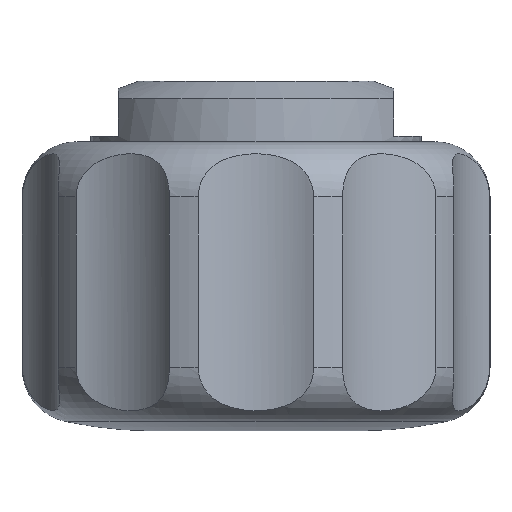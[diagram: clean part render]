
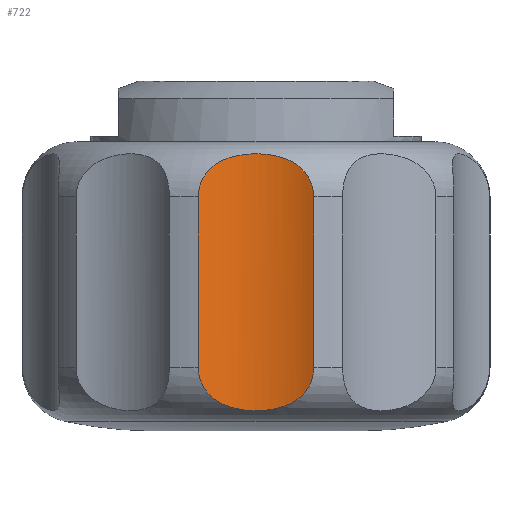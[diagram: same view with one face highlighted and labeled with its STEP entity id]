
A CAD part, front view. The second image highlights one B-rep face of the part: STEP entity #722.
In plain terms, the highlighted cylindrical face has radius 4.75 mm (diameter 9.5 mm), a partial arc.
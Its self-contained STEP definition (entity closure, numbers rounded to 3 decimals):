
#38 = B_SPLINE_CURVE_WITH_KNOTS ( 'NONE', 3,
 ( #1797, #728, #1649, #877, #1952, #1039, #127, #1198, #283, #1354, #434, #1505, #588, #1655, #733, #1803, #885, #1959, #1044, #134, #1206, #287, #1361, #439, #1516, #593 ),
 .UNSPECIFIED., .F., .F.,
 ( 4, 2, 2, 2, 2, 2, 2, 2, 2, 2, 2, 2, 4 ),
 ( 0., 0., 0.001, 0.001, 0.001, 0.002, 0.002, 0.003, 0.004, 0.004, 0.005, 0.005, 0.006 ),
 .UNSPECIFIED. ) ;
#46 = DIRECTION ( 'NONE',  ( 0., 0., 1. ) ) ;
#66 = CARTESIAN_POINT ( 'NONE',  ( 1.848, -8.124, -1.188 ) ) ;
#119 = CARTESIAN_POINT ( 'NONE',  ( -1.605, -8.028, -0.921 ) ) ;
#127 = CARTESIAN_POINT ( 'NONE',  ( -1.773, -8.092, -9.115 ) ) ;
#134 = CARTESIAN_POINT ( 'NONE',  ( 1.51, -7.995, -9.359 ) ) ;
#148 = DIRECTION ( 'NONE',  ( 0., 0., 1. ) ) ;
#161 = DIRECTION ( 'NONE',  ( 0., 0., -1. ) ) ;
#188 = ORIENTED_EDGE ( 'NONE', *, *, #861, .T. ) ;
#216 = EDGE_CURVE ( 'NONE', #1811, #1187, #1179, .T. ) ;
#218 = CARTESIAN_POINT ( 'NONE',  ( 1.604, -8.028, -0.921 ) ) ;
#276 = CARTESIAN_POINT ( 'NONE',  ( -1.849, -8.124, -1.189 ) ) ;
#283 = CARTESIAN_POINT ( 'NONE',  ( -1.509, -7.995, -9.36 ) ) ;
#287 = CARTESIAN_POINT ( 'NONE',  ( 1.773, -8.093, -9.115 ) ) ;
#376 = CARTESIAN_POINT ( 'NONE',  ( 1.305, -7.931, -0.718 ) ) ;
#429 = CARTESIAN_POINT ( 'NONE',  ( -2.096, -8.238, -1.748 ) ) ;
#434 = CARTESIAN_POINT ( 'NONE',  ( -1.197, -7.902, -9.54 ) ) ;
#439 = CARTESIAN_POINT ( 'NONE',  ( 2.029, -8.203, -8.704 ) ) ;
#527 = CARTESIAN_POINT ( 'NONE',  ( 0.971, -7.849, -0.578 ) ) ;
#558 = VECTOR ( 'NONE', #46, 1000. ) ;
#574 = ORIENTED_EDGE ( 'NONE', *, *, #216, .T. ) ;
#588 = CARTESIAN_POINT ( 'NONE',  ( -0.852, -7.826, -9.663 ) ) ;
#593 = CARTESIAN_POINT ( 'NONE',  ( 2.096, -8.238, -8.206 ) ) ;
#607 = CARTESIAN_POINT ( 'NONE',  ( 2.096, -8.238, -2. ) ) ;
#653 = EDGE_CURVE ( 'NONE', #1718, #1811, #1658, .T. ) ;
#664 = EDGE_CURVE ( 'NONE', #1187, #1777, #38, .T. ) ;
#671 = CARTESIAN_POINT ( 'NONE',  ( 2.096, -8.238, -1.874 ) ) ;
#679 = CARTESIAN_POINT ( 'NONE',  ( 0.494, -7.77, -0.463 ) ) ;
#722 = ADVANCED_FACE ( 'NONE', ( #1875 ), #1424, .F. ) ;
#728 = CARTESIAN_POINT ( 'NONE',  ( -2.096, -8.237, -8.332 ) ) ;
#733 = CARTESIAN_POINT ( 'NONE',  ( -0.248, -7.75, -9.767 ) ) ;
#774 = VECTOR ( 'NONE', #161, 1000. ) ;
#782 = CARTESIAN_POINT ( 'NONE',  ( -2.096, -8.237, -2. ) ) ;
#824 = CARTESIAN_POINT ( 'NONE',  ( 2.08, -8.229, -1.752 ) ) ;
#829 = CARTESIAN_POINT ( 'NONE',  ( -0.25, -7.75, -0.439 ) ) ;
#861 = EDGE_CURVE ( 'NONE', #1777, #1718, #1377, .T. ) ;
#870 = CARTESIAN_POINT ( 'NONE',  ( -0.973, -7.845, -0.571 ) ) ;
#877 = CARTESIAN_POINT ( 'NONE',  ( -2.017, -8.199, -8.693 ) ) ;
#885 = CARTESIAN_POINT ( 'NONE',  ( 0.494, -7.77, -9.743 ) ) ;
#963 = CARTESIAN_POINT ( 'NONE',  ( 2.096, -8.238, -5.25 ) ) ;
#978 = CARTESIAN_POINT ( 'NONE',  ( 1.969, -8.177, -1.398 ) ) ;
#1032 = CARTESIAN_POINT ( 'NONE',  ( -1.51, -7.995, -0.847 ) ) ;
#1039 = CARTESIAN_POINT ( 'NONE',  ( -1.848, -8.124, -9.018 ) ) ;
#1044 = CARTESIAN_POINT ( 'NONE',  ( 1.203, -7.9, -9.551 ) ) ;
#1133 = CARTESIAN_POINT ( 'NONE',  ( 1.773, -8.092, -1.091 ) ) ;
#1179 = LINE ( 'NONE', #1693, #774 ) ;
#1187 = VERTEX_POINT ( 'NONE', #1261 ) ;
#1192 = CARTESIAN_POINT ( 'NONE',  ( -1.773, -8.093, -1.091 ) ) ;
#1198 = CARTESIAN_POINT ( 'NONE',  ( -1.604, -8.028, -9.285 ) ) ;
#1206 = CARTESIAN_POINT ( 'NONE',  ( 1.605, -8.028, -9.285 ) ) ;
#1261 = CARTESIAN_POINT ( 'NONE',  ( -2.096, -8.237, -8.206 ) ) ;
#1290 = CARTESIAN_POINT ( 'NONE',  ( 1.509, -7.995, -0.846 ) ) ;
#1345 = CARTESIAN_POINT ( 'NONE',  ( -2.029, -8.203, -1.502 ) ) ;
#1354 = CARTESIAN_POINT ( 'NONE',  ( -1.305, -7.931, -9.487 ) ) ;
#1356 = ORIENTED_EDGE ( 'NONE', *, *, #664, .T. ) ;
#1361 = CARTESIAN_POINT ( 'NONE',  ( 1.849, -8.124, -9.017 ) ) ;
#1377 = LINE ( 'NONE', #963, #558 ) ;
#1379 = DIRECTION ( 'NONE',  ( 1., 0., 0. ) ) ;
#1424 = CYLINDRICAL_SURFACE ( 'NONE', #1873, 4.75 ) ;
#1444 = CARTESIAN_POINT ( 'NONE',  ( 1.197, -7.902, -0.666 ) ) ;
#1497 = CARTESIAN_POINT ( 'NONE',  ( -2.096, -8.237, -2. ) ) ;
#1505 = CARTESIAN_POINT ( 'NONE',  ( -0.971, -7.849, -9.628 ) ) ;
#1516 = CARTESIAN_POINT ( 'NONE',  ( 2.096, -8.238, -8.457 ) ) ;
#1529 = CARTESIAN_POINT ( 'NONE',  ( 0., -12.5, -10.5 ) ) ;
#1600 = CARTESIAN_POINT ( 'NONE',  ( 0.852, -7.826, -0.543 ) ) ;
#1620 = ORIENTED_EDGE ( 'NONE', *, *, #653, .T. ) ;
#1649 = CARTESIAN_POINT ( 'NONE',  ( -2.08, -8.229, -8.454 ) ) ;
#1655 = CARTESIAN_POINT ( 'NONE',  ( -0.494, -7.77, -9.743 ) ) ;
#1658 = B_SPLINE_CURVE_WITH_KNOTS ( 'NONE', 3,
 ( #1735, #671, #824, #1894, #978, #66, #1133, #218, #1290, #376, #1444, #527, #1600, #679, #1741, #829, #1791, #870, #1947, #1032, #119, #1192, #276, #1345, #429, #1497 ),
 .UNSPECIFIED., .F., .F.,
 ( 4, 2, 2, 2, 2, 2, 2, 2, 2, 2, 2, 2, 4 ),
 ( 0., 0., 0.001, 0.001, 0.001, 0.002, 0.002, 0.003, 0.004, 0.004, 0.005, 0.005, 0.006 ),
 .UNSPECIFIED. ) ;
#1693 = CARTESIAN_POINT ( 'NONE',  ( -2.096, -8.237, -5.25 ) ) ;
#1718 = VERTEX_POINT ( 'NONE', #607 ) ;
#1735 = CARTESIAN_POINT ( 'NONE',  ( 2.096, -8.238, -2. ) ) ;
#1741 = CARTESIAN_POINT ( 'NONE',  ( 0.248, -7.75, -0.439 ) ) ;
#1765 = EDGE_LOOP ( 'NONE', ( #1620, #574, #1356, #188 ) ) ;
#1777 = VERTEX_POINT ( 'NONE', #1841 ) ;
#1791 = CARTESIAN_POINT ( 'NONE',  ( -0.494, -7.77, -0.463 ) ) ;
#1797 = CARTESIAN_POINT ( 'NONE',  ( -2.096, -8.237, -8.206 ) ) ;
#1803 = CARTESIAN_POINT ( 'NONE',  ( 0.25, -7.75, -9.767 ) ) ;
#1811 = VERTEX_POINT ( 'NONE', #782 ) ;
#1841 = CARTESIAN_POINT ( 'NONE',  ( 2.096, -8.238, -8.206 ) ) ;
#1873 = AXIS2_PLACEMENT_3D ( 'NONE', #1529, #148, #1379 ) ;
#1875 = FACE_OUTER_BOUND ( 'NONE', #1765, .T. ) ;
#1894 = CARTESIAN_POINT ( 'NONE',  ( 2.017, -8.199, -1.513 ) ) ;
#1947 = CARTESIAN_POINT ( 'NONE',  ( -1.203, -7.9, -0.655 ) ) ;
#1952 = CARTESIAN_POINT ( 'NONE',  ( -1.969, -8.177, -8.808 ) ) ;
#1959 = CARTESIAN_POINT ( 'NONE',  ( 0.973, -7.845, -9.635 ) ) ;
